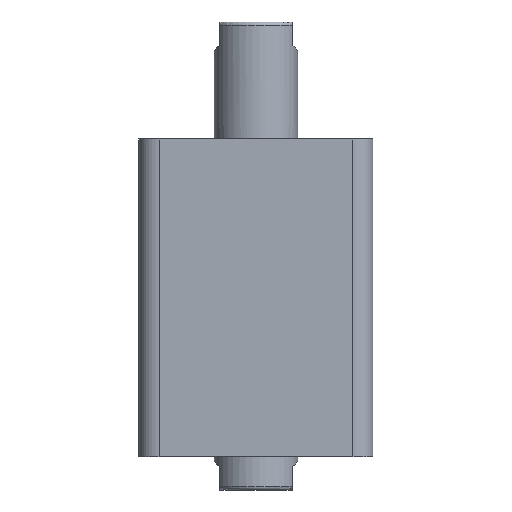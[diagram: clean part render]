
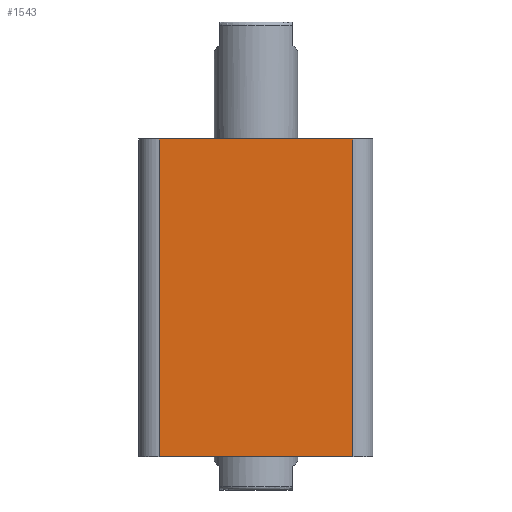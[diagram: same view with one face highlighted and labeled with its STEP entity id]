
A CAD part, front view. The second image highlights one B-rep face of the part: STEP entity #1543.
In plain terms, the highlighted planar face has unit normal (0, -1, 0).
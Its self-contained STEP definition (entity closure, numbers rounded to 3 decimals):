
#37 = AXIS2_PLACEMENT_3D ( 'NONE', #1071, #1075, #1076 ) ;
#232 = EDGE_CURVE ( 'NONE', #1890, #2652, #2895, .T. ) ;
#233 = EDGE_CURVE ( 'NONE', #1890, #2654, #2897, .T. ) ;
#234 = EDGE_CURVE ( 'NONE', #2654, #2653, #2889, .T. ) ;
#235 = EDGE_CURVE ( 'NONE', #2653, #2652, #2901, .T. ) ;
#671 = CARTESIAN_POINT ( 'NONE',  ( -35., -35., 0. ) ) ;
#692 = CARTESIAN_POINT ( 'NONE',  ( -35., -35., 95. ) ) ;
#693 = DIRECTION ( 'NONE',  ( 1., 0., 0. ) ) ;
#694 = CARTESIAN_POINT ( 'NONE',  ( -29., -35., 95. ) ) ;
#695 = DIRECTION ( 'NONE',  ( 0., 0., -1. ) ) ;
#696 = DIRECTION ( 'NONE',  ( 1., 0., 0. ) ) ;
#697 = CARTESIAN_POINT ( 'NONE',  ( 29., -35., 95. ) ) ;
#698 = DIRECTION ( 'NONE',  ( 0., 0., 1. ) ) ;
#1071 = CARTESIAN_POINT ( 'NONE',  ( -35., -35., 95. ) ) ;
#1073 = PLANE ( 'NONE',  #37 ) ;
#1075 = DIRECTION ( 'NONE',  ( 0., 1., 0. ) ) ;
#1076 = DIRECTION ( 'NONE',  ( 0., 0., 1. ) ) ;
#1116 = CARTESIAN_POINT ( 'NONE',  ( -29., -35., 95. ) ) ;
#1440 = CARTESIAN_POINT ( 'NONE',  ( 29., -35., 0. ) ) ;
#1457 = CARTESIAN_POINT ( 'NONE',  ( 29., -35., 95. ) ) ;
#1458 = CARTESIAN_POINT ( 'NONE',  ( -29., -35., 0. ) ) ;
#1543 = ADVANCED_FACE ( 'NONE', ( #2369 ), #1073, .F. ) ;
#1727 = ORIENTED_EDGE ( 'NONE', *, *, #232, .F. ) ;
#1728 = ORIENTED_EDGE ( 'NONE', *, *, #233, .T. ) ;
#1729 = ORIENTED_EDGE ( 'NONE', *, *, #234, .T. ) ;
#1730 = ORIENTED_EDGE ( 'NONE', *, *, #235, .T. ) ;
#1890 = VERTEX_POINT ( 'NONE', #1116 ) ;
#2369 = FACE_OUTER_BOUND ( 'NONE', #2691, .T. ) ;
#2652 = VERTEX_POINT ( 'NONE', #1457 ) ;
#2653 = VERTEX_POINT ( 'NONE', #1440 ) ;
#2654 = VERTEX_POINT ( 'NONE', #1458 ) ;
#2691 = EDGE_LOOP ( 'NONE', ( #1727, #1728, #1729, #1730 ) ) ;
#2889 = LINE ( 'NONE', #671, #2902 ) ;
#2895 = LINE ( 'NONE', #692, #2898 ) ;
#2897 = LINE ( 'NONE', #694, #2900 ) ;
#2898 = VECTOR ( 'NONE', #693, 1000. ) ;
#2900 = VECTOR ( 'NONE', #695, 1000. ) ;
#2901 = LINE ( 'NONE', #697, #2904 ) ;
#2902 = VECTOR ( 'NONE', #696, 1000. ) ;
#2904 = VECTOR ( 'NONE', #698, 1000. ) ;
